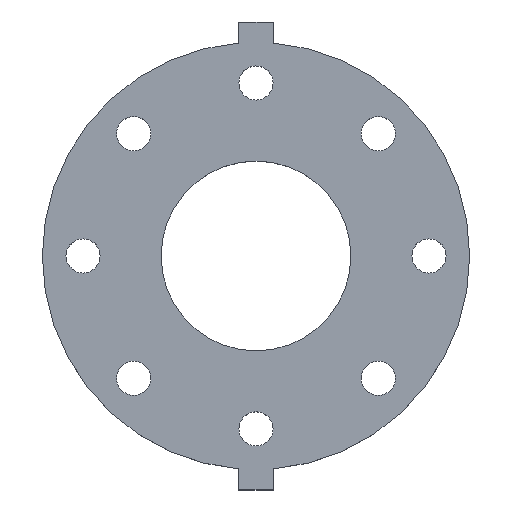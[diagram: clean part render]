
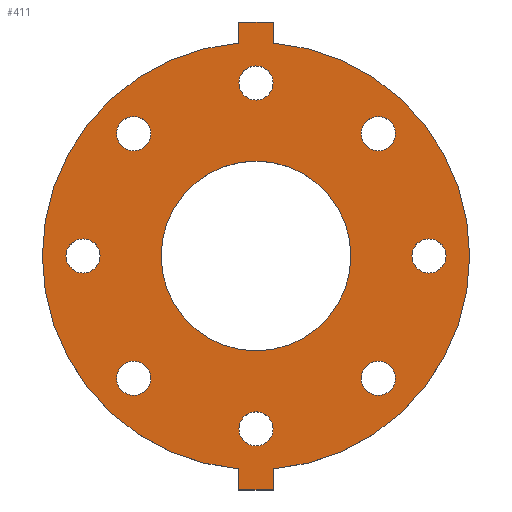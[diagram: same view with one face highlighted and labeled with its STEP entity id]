
A CAD part, top view. The second image highlights one B-rep face of the part: STEP entity #411.
In plain terms, the highlighted planar face has unit normal (0, 0, 1).
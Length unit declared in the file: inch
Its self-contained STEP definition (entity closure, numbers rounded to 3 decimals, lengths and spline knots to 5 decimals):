
#14=FACE_BOUND('',#77,.T.);
#15=FACE_BOUND('',#78,.T.);
#16=FACE_BOUND('',#79,.T.);
#17=FACE_BOUND('',#80,.T.);
#18=FACE_BOUND('',#81,.T.);
#19=FACE_BOUND('',#82,.T.);
#20=FACE_BOUND('',#83,.T.);
#21=FACE_BOUND('',#84,.T.);
#22=FACE_BOUND('',#85,.T.);
#38=PLANE('',#472);
#57=FACE_OUTER_BOUND('',#76,.T.);
#76=EDGE_LOOP('',(#329,#330,#331,#332,#333,#334,#335,#336));
#77=EDGE_LOOP('',(#337));
#78=EDGE_LOOP('',(#338));
#79=EDGE_LOOP('',(#339));
#80=EDGE_LOOP('',(#340));
#81=EDGE_LOOP('',(#341));
#82=EDGE_LOOP('',(#342));
#83=EDGE_LOOP('',(#343));
#84=EDGE_LOOP('',(#344));
#85=EDGE_LOOP('',(#345));
#111=LINE('',#665,#140);
#113=LINE('',#670,#142);
#116=LINE('',#674,#145);
#119=LINE('',#682,#148);
#122=LINE('',#686,#151);
#124=LINE('',#689,#153);
#140=VECTOR('',#559,0.3937);
#142=VECTOR('',#563,0.3937);
#145=VECTOR('',#568,0.3937);
#148=VECTOR('',#573,0.3937);
#151=VECTOR('',#578,0.3937);
#153=VECTOR('',#582,0.3937);
#154=CIRCLE('',#434,0.315);
#156=CIRCLE('',#437,0.315);
#158=CIRCLE('',#440,0.315);
#160=CIRCLE('',#443,0.315);
#162=CIRCLE('',#446,0.315);
#164=CIRCLE('',#449,0.315);
#166=CIRCLE('',#452,0.315);
#168=CIRCLE('',#455,0.315);
#171=CIRCLE('',#459,1.75);
#173=CIRCLE('',#462,3.94);
#174=CIRCLE('',#464,3.94);
#176=VERTEX_POINT('',#589);
#178=VERTEX_POINT('',#595);
#180=VERTEX_POINT('',#601);
#182=VERTEX_POINT('',#607);
#184=VERTEX_POINT('',#613);
#186=VERTEX_POINT('',#619);
#188=VERTEX_POINT('',#625);
#190=VERTEX_POINT('',#631);
#193=VERTEX_POINT('',#639);
#195=VERTEX_POINT('',#644);
#197=VERTEX_POINT('',#648);
#199=VERTEX_POINT('',#653);
#200=VERTEX_POINT('',#655);
#203=VERTEX_POINT('',#663);
#205=VERTEX_POINT('',#669);
#208=VERTEX_POINT('',#679);
#209=VERTEX_POINT('',#681);
#210=EDGE_CURVE('',#176,#176,#154,.T.);
#213=EDGE_CURVE('',#178,#178,#156,.T.);
#216=EDGE_CURVE('',#180,#180,#158,.T.);
#219=EDGE_CURVE('',#182,#182,#160,.T.);
#222=EDGE_CURVE('',#184,#184,#162,.T.);
#225=EDGE_CURVE('',#186,#186,#164,.T.);
#228=EDGE_CURVE('',#188,#188,#166,.T.);
#231=EDGE_CURVE('',#190,#190,#168,.T.);
#236=EDGE_CURVE('',#193,#193,#171,.T.);
#240=EDGE_CURVE('',#195,#197,#173,.T.);
#242=EDGE_CURVE('',#200,#199,#174,.T.);
#247=EDGE_CURVE('',#197,#203,#111,.T.);
#249=EDGE_CURVE('',#205,#200,#113,.T.);
#252=EDGE_CURVE('',#203,#205,#116,.T.);
#255=EDGE_CURVE('',#209,#208,#119,.T.);
#258=EDGE_CURVE('',#199,#209,#122,.T.);
#260=EDGE_CURVE('',#208,#195,#124,.T.);
#329=ORIENTED_EDGE('',*,*,#260,.T.);
#330=ORIENTED_EDGE('',*,*,#240,.T.);
#331=ORIENTED_EDGE('',*,*,#247,.T.);
#332=ORIENTED_EDGE('',*,*,#252,.T.);
#333=ORIENTED_EDGE('',*,*,#249,.T.);
#334=ORIENTED_EDGE('',*,*,#242,.T.);
#335=ORIENTED_EDGE('',*,*,#258,.T.);
#336=ORIENTED_EDGE('',*,*,#255,.T.);
#337=ORIENTED_EDGE('',*,*,#210,.T.);
#338=ORIENTED_EDGE('',*,*,#213,.T.);
#339=ORIENTED_EDGE('',*,*,#216,.T.);
#340=ORIENTED_EDGE('',*,*,#219,.T.);
#341=ORIENTED_EDGE('',*,*,#222,.T.);
#342=ORIENTED_EDGE('',*,*,#225,.T.);
#343=ORIENTED_EDGE('',*,*,#228,.T.);
#344=ORIENTED_EDGE('',*,*,#231,.T.);
#345=ORIENTED_EDGE('',*,*,#236,.T.);
#411=ADVANCED_FACE('',(#57,#14,#15,#16,#17,#18,#19,#20,#21,#22),#38,.T.);
#434=AXIS2_PLACEMENT_3D('',#590,#478,#479);
#437=AXIS2_PLACEMENT_3D('',#596,#485,#486);
#440=AXIS2_PLACEMENT_3D('',#602,#492,#493);
#443=AXIS2_PLACEMENT_3D('',#608,#499,#500);
#446=AXIS2_PLACEMENT_3D('',#614,#506,#507);
#449=AXIS2_PLACEMENT_3D('',#620,#513,#514);
#452=AXIS2_PLACEMENT_3D('',#626,#520,#521);
#455=AXIS2_PLACEMENT_3D('',#632,#527,#528);
#459=AXIS2_PLACEMENT_3D('',#641,#537,#538);
#462=AXIS2_PLACEMENT_3D('',#650,#545,#546);
#464=AXIS2_PLACEMENT_3D('',#656,#550,#551);
#472=AXIS2_PLACEMENT_3D('',#690,#583,#584);
#478=DIRECTION('center_axis',(0.,0.,-1.));
#479=DIRECTION('ref_axis',(-0.707,-0.707,0.));
#485=DIRECTION('center_axis',(0.,0.,-1.));
#486=DIRECTION('ref_axis',(-1.,0.,0.));
#492=DIRECTION('center_axis',(0.,0.,-1.));
#493=DIRECTION('ref_axis',(-0.707,0.707,0.));
#499=DIRECTION('center_axis',(0.,0.,-1.));
#500=DIRECTION('ref_axis',(0.,1.,0.));
#506=DIRECTION('center_axis',(0.,0.,-1.));
#507=DIRECTION('ref_axis',(0.707,0.707,0.));
#513=DIRECTION('center_axis',(0.,0.,-1.));
#514=DIRECTION('ref_axis',(1.,0.,0.));
#520=DIRECTION('center_axis',(0.,0.,-1.));
#521=DIRECTION('ref_axis',(0.707,-0.707,0.));
#527=DIRECTION('center_axis',(0.,0.,-1.));
#528=DIRECTION('ref_axis',(0.,-1.,0.));
#537=DIRECTION('center_axis',(0.,0.,-1.));
#538=DIRECTION('ref_axis',(0.,-1.,0.));
#545=DIRECTION('center_axis',(0.,0.,1.));
#546=DIRECTION('ref_axis',(0.,1.,0.));
#550=DIRECTION('center_axis',(0.,0.,1.));
#551=DIRECTION('ref_axis',(0.,1.,0.));
#559=DIRECTION('',(0.,-1.,0.));
#563=DIRECTION('',(0.,1.,0.));
#568=DIRECTION('',(1.,0.,0.));
#573=DIRECTION('',(-1.,0.,0.));
#578=DIRECTION('',(0.,1.,0.));
#582=DIRECTION('',(0.,-1.,0.));
#583=DIRECTION('center_axis',(0.,0.,1.));
#584=DIRECTION('ref_axis',(0.,1.,0.));
#589=CARTESIAN_POINT('',(-2.03293,2.47841,0.88));
#590=CARTESIAN_POINT('Origin',(-2.25567,2.25567,0.88));
#595=CARTESIAN_POINT('',(0.315,3.19,0.88));
#596=CARTESIAN_POINT('Origin',(0.,3.19,0.88));
#601=CARTESIAN_POINT('',(2.47841,2.03293,0.88));
#602=CARTESIAN_POINT('Origin',(2.25567,2.25567,0.88));
#607=CARTESIAN_POINT('',(3.19,-0.315,0.88));
#608=CARTESIAN_POINT('Origin',(3.19,0.,0.88));
#613=CARTESIAN_POINT('',(2.03293,-2.47841,0.88));
#614=CARTESIAN_POINT('Origin',(2.25567,-2.25567,0.88));
#619=CARTESIAN_POINT('',(-0.315,-3.19,0.88));
#620=CARTESIAN_POINT('Origin',(0.,-3.19,0.88));
#625=CARTESIAN_POINT('',(-2.47841,-2.03293,0.88));
#626=CARTESIAN_POINT('Origin',(-2.25567,-2.25567,0.88));
#631=CARTESIAN_POINT('',(-3.19,0.315,0.88));
#632=CARTESIAN_POINT('Origin',(-3.19,0.,0.88));
#639=CARTESIAN_POINT('',(0.,1.75,0.88));
#641=CARTESIAN_POINT('Origin',(0.,0.,0.88));
#644=CARTESIAN_POINT('',(-0.32,3.92698,0.88));
#648=CARTESIAN_POINT('',(-0.32,-3.92698,0.88));
#650=CARTESIAN_POINT('Origin',(0.,0.,0.88));
#653=CARTESIAN_POINT('',(0.32,3.92698,0.88));
#655=CARTESIAN_POINT('',(0.32,-3.92698,0.88));
#656=CARTESIAN_POINT('Origin',(0.,0.,0.88));
#663=CARTESIAN_POINT('',(-0.32,-4.315,0.88));
#665=CARTESIAN_POINT('',(-0.32,-3.92698,0.88));
#669=CARTESIAN_POINT('',(0.32,-4.315,0.88));
#670=CARTESIAN_POINT('',(0.32,-4.315,0.88));
#674=CARTESIAN_POINT('',(-0.32,-4.315,0.88));
#679=CARTESIAN_POINT('',(-0.32,4.315,0.88));
#681=CARTESIAN_POINT('',(0.32,4.315,0.88));
#682=CARTESIAN_POINT('',(0.32,4.315,0.88));
#686=CARTESIAN_POINT('',(0.32,3.92698,0.88));
#689=CARTESIAN_POINT('',(-0.32,4.315,0.88));
#690=CARTESIAN_POINT('Origin',(0.,4.1395,0.88));
